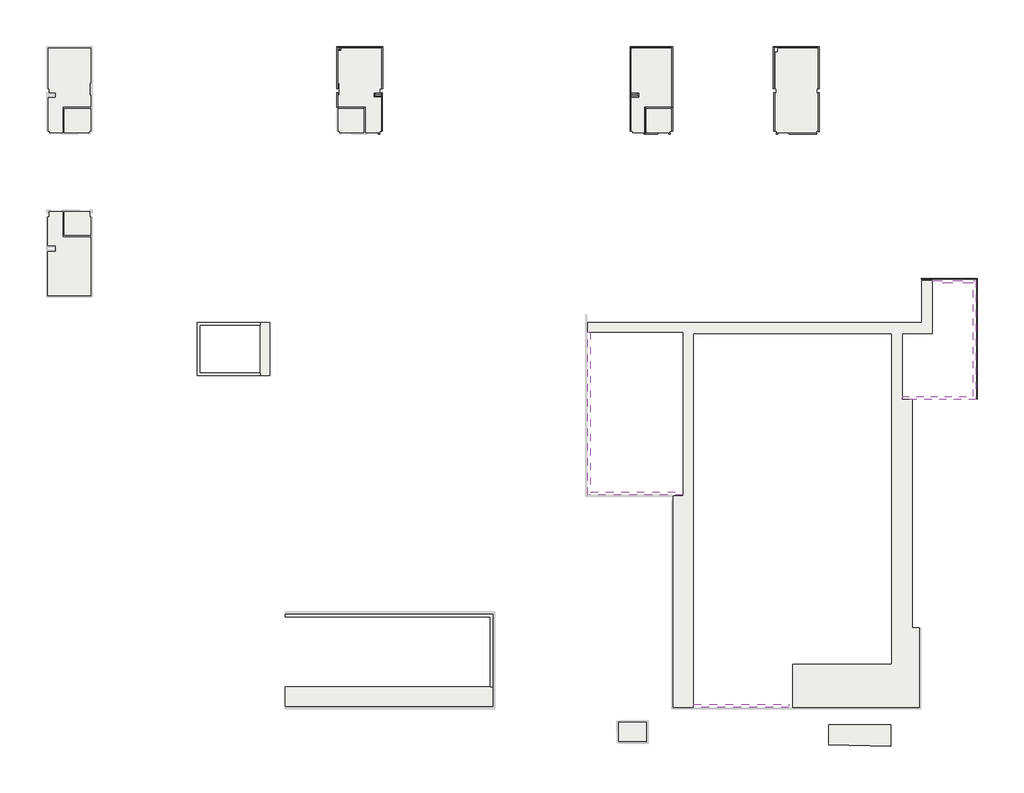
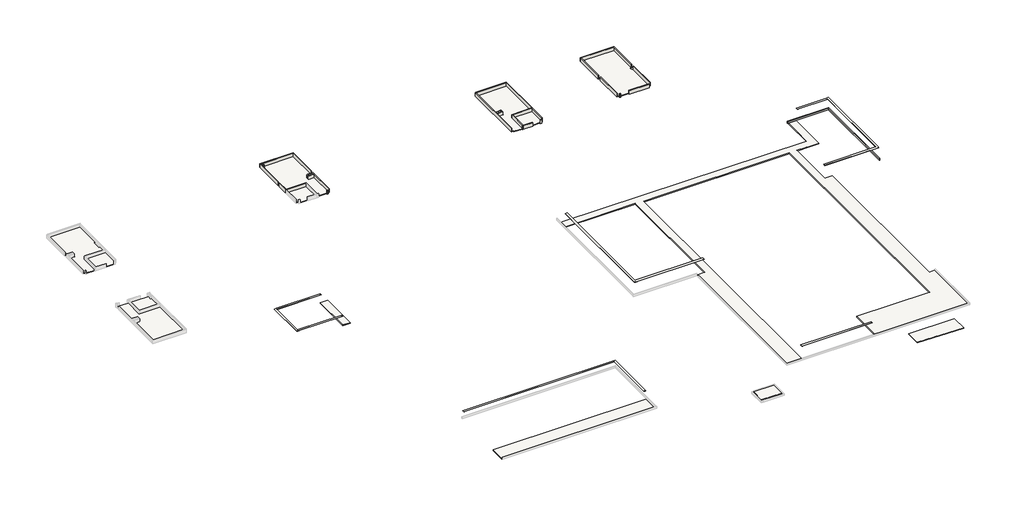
# One storey, part 2 of 2: 33 walls, 19 slabs.
"""IFC4 building model written with IfcOpenShell, lengths in millimetres."""

import ifcopenshell
import ifcopenshell.guid

model = None  # the IFC model being written
_history = None  # IfcOwnerHistory: only IFC2X3 demands one
_inside = {}  # id of a spatial element -> (the spatial element, [elements in it])
_under = {}  # id of a project, library or spatial element -> (it, [spatial elements below it])
_declared = {}  # id of a project -> (the project, [libraries it declares])
_typed = {}  # id of a type object -> (the type object, [elements of that type])
_made_of = {}  # id of a material, layer set ... -> (it, [elements and type objects made of it])


def new_model(schema):
    """Start an empty IFC model of exactly this schema.

    Asked for "IFC4X3", IfcOpenShell would pick the latest addendum, in which some entities
    have other attributes; the version numbers below select the first issue.
    IFC2X3 requires an IfcOwnerHistory on every rooted entity: one is made here for all.
    """
    global model, _history
    if schema == "IFC4X3":
        model = ifcopenshell.file(schema_version=(4, 3, 0, 0))
    else:
        model = ifcopenshell.file(schema=schema)
    _inside.clear()
    _under.clear()
    _declared.clear()
    _typed.clear()
    _made_of.clear()
    _history = None
    if model.schema == "IFC2X3":
        org = make("IfcOrganization", Name="unknown")
        user = make(
            "IfcPersonAndOrganization",
            ThePerson=make("IfcPerson", FamilyName="unknown"),
            TheOrganization=org,
        )
        app = make(
            "IfcApplication",
            ApplicationDeveloper=org,
            Version="unknown",
            ApplicationFullName="unknown",
            ApplicationIdentifier="unknown",
        )
        _history = make(
            "IfcOwnerHistory",
            OwningUser=user,
            OwningApplication=app,
            ChangeAction="ADDED",
            CreationDate=0,
        )
    return model


def make(cls, **values):
    """One entity of the class cls with the attributes given. An attribute that is None is left unset."""
    return model.create_entity(
        cls, **{name: value for name, value in values.items() if value is not None}
    )


def rooted(cls, **values):
    """An entity with a GlobalId (a new one), such as an element, a storey or a relation."""
    return make(cls, GlobalId=ifcopenshell.guid.new(), OwnerHistory=_history, **values)


def si_unit(unit_type, name, prefix=None):
    """IfcSIUnit, for example si_unit("LENGTHUNIT", "METRE", prefix="MILLI")."""
    return make("IfcSIUnit", UnitType=unit_type, Prefix=prefix, Name=name)


def assignment(units):
    """IfcUnitAssignment: the units of a project."""
    return None if units is None else make("IfcUnitAssignment", Units=units)


def point(xyz):
    """IfcCartesianPoint."""
    return None if xyz is None else make("IfcCartesianPoint", Coordinates=xyz)


def direction(xyz):
    """IfcDirection."""
    return None if xyz is None else make("IfcDirection", DirectionRatios=xyz)


def frame(location, z_axis=None, x_axis=None):
    """IfcAxis2Placement3D, a coordinate frame: its origin and axes. An axis left out is left unset."""
    return make(
        "IfcAxis2Placement3D",
        Location=point(location),
        Axis=direction(z_axis),
        RefDirection=direction(x_axis),
    )


def origin():
    """The frame at (0, 0, 0) with its axes left unset."""
    return frame((0.0, 0.0, 0.0))


def place(relative_to, where):
    """IfcLocalPlacement: puts the frame where relative to a parent placement (None: the world)."""
    return make(
        "IfcLocalPlacement", PlacementRelTo=relative_to, RelativePlacement=where
    )


def context(
    kind, dimensions, precision=None, world=None, true_north=None, identifier=None
):
    """IfcGeometricRepresentationContext, for example the 3D "Model" context."""
    return make(
        "IfcGeometricRepresentationContext",
        ContextIdentifier=identifier,
        ContextType=kind,
        CoordinateSpaceDimension=dimensions,
        Precision=precision,
        WorldCoordinateSystem=world,
        TrueNorth=true_north,
    )


def project(units=None, contexts=None):
    """IfcProject with its units and contexts."""
    return rooted(
        "IfcProject",
        Name="project",
        RepresentationContexts=contexts,
        UnitsInContext=assignment(units),
    )


def spatial(cls, under=None, at=None, **own):
    """A site, building, storey or space (cls), placed at a placement, below another one or the project."""
    s = rooted(cls, ObjectPlacement=at, **own)
    if under is not None:
        _under.setdefault(under.id(), (under, []))[1].append(s)
    return s


def polyline(points):
    """IfcPolyline through the points."""
    return make("IfcPolyline", Points=[point(p) for p in points])


def outline(outer, holes=None, kind="AREA"):
    """IfcArbitraryClosedProfileDef: a profile drawn as a closed curve; with holes, ...WithVoids."""
    if holes is None:
        return make("IfcArbitraryClosedProfileDef", ProfileType=kind, OuterCurve=outer)
    return make(
        "IfcArbitraryProfileDefWithVoids",
        ProfileType=kind,
        OuterCurve=outer,
        InnerCurves=holes,
    )


def extrude(swept, where, along, depth):
    """IfcExtrudedAreaSolid: the profile swept, set in the frame where, extruded along a direction by depth."""
    return make(
        "IfcExtrudedAreaSolid",
        SweptArea=swept,
        Position=where,
        ExtrudedDirection=direction(along),
        Depth=depth,
    )


def faces_of(points, faces, orient=None, outer=None):
    """IfcFace entities. A face is a list of loops; a loop is a list of indices into points, from 0.

    orient and outer hold one flag for each loop. By default every Orientation is true, the
    first loop of a face is its IfcFaceOuterBound and the others are IfcFaceBound.
    """
    made = []
    for i, loops in enumerate(faces):
        bounds = []
        for j, loop in enumerate(loops):
            is_outer = j == 0 if outer is None else outer[i][j]
            bounds.append(
                make(
                    "IfcFaceOuterBound" if is_outer else "IfcFaceBound",
                    Bound=make("IfcPolyLoop", Polygon=[points[k] for k in loop]),
                    Orientation=True if orient is None else orient[i][j],
                )
            )
        made.append(make("IfcFace", Bounds=bounds))
    return made


def faceted_brep(points, faces, orient=None, outer=None, voids=None):
    """IfcFacetedBrep: a solid bounded by flat faces; with voids (closed shells), ...WithVoids."""
    shared = [point(p) for p in points]
    hull = make("IfcClosedShell", CfsFaces=faces_of(shared, faces, orient, outer))
    if voids is None:
        return make("IfcFacetedBrep", Outer=hull)
    return make(
        "IfcFacetedBrepWithVoids",
        Outer=hull,
        Voids=[
            make(cls, CfsFaces=faces_of(shared, fs, o, b)) for cls, fs, o, b in voids
        ],
    )


def shape(context_of_items, identifier, shape_type, items):
    """IfcShapeRepresentation: the items that make up one representation, for example the "Body"."""
    return make(
        "IfcShapeRepresentation",
        ContextOfItems=context_of_items,
        RepresentationIdentifier=identifier,
        RepresentationType=shape_type,
        Items=items,
    )


def made_of(thing, what):
    """Note that an element or type object is made of a material, layer set ...; save() writes the relation."""
    if what is not None:
        _made_of.setdefault(what.id(), (what, []))[1].append(thing)
    return thing


def element(
    cls,
    number,
    at=None,
    inside=None,
    cuts=None,
    type_object=None,
    material=None,
    context=None,
    identifier="Body",
    shape_type=None,
    held_by="IfcProductDefinitionShape",
    body=None,
    shapes=None,
    **own,
):
    """One element of the class cls, such as IfcWall. Its Tag is "e" and its number.

    at: its placement. inside: the storey or other place that contains it. cuts: it is an
    opening in that element (IfcRelVoidsElement). A single representation is given by context,
    identifier, shape_type and body (its items); several are given by shapes. held_by: the class
    of the entity that holds the representations. save() writes the other relations.
    """
    e = rooted(cls, Tag="e%d" % number, ObjectPlacement=at, **own)
    if body is not None:
        shapes = [shape(context, identifier, shape_type, body)]
    if shapes is not None:
        e.Representation = make(held_by, Representations=shapes)
    if inside is not None:
        _inside.setdefault(inside.id(), (inside, []))[1].append(e)
    if cuts is not None:
        rooted(
            "IfcRelVoidsElement", RelatingBuildingElement=cuts, RelatedOpeningElement=e
        )
    if type_object is not None:
        _typed.setdefault(type_object.id(), (type_object, []))[1].append(e)
    return made_of(e, material)


def aggregate(whole, parts):
    """IfcRelAggregates: a whole, such as a stair, and the parts it consists of."""
    return rooted("IfcRelAggregates", RelatingObject=whole, RelatedObjects=parts)


def save(model, path):
    """Write the relations noted so far, then the file.

    IfcRelAggregates (storeys below a building ...), IfcRelContainedInSpatialStructure (elements
    in a storey), IfcRelDefinesByType, IfcRelAssociatesMaterial and IfcRelDeclares: one each for
    every whole, place, type object, material and project.
    """
    for whole, parts in _under.values():
        aggregate(whole, parts)
    for where, things in _inside.values():
        rooted(
            "IfcRelContainedInSpatialStructure",
            RelatedElements=things,
            RelatingStructure=where,
        )
    for kind, things in _typed.values():
        rooted("IfcRelDefinesByType", RelatedObjects=things, RelatingType=kind)
    for what, things in _made_of.values():
        rooted("IfcRelAssociatesMaterial", RelatedObjects=things, RelatingMaterial=what)
    for by, libraries in _declared.values():
        rooted("IfcRelDeclares", RelatingContext=by, RelatedDefinitions=libraries)
    model.write(path)


model = new_model("IFC4")

# Units and contexts
model_context = context("Model", 3, world=origin())
ifc_project = project(units=[si_unit("LENGTHUNIT", "METRE", prefix="MILLI")], contexts=[model_context])

# Site, building, storey
site = spatial("IfcSite", under=ifc_project)
building = spatial("IfcBuilding", under=site)
storey = spatial("IfcBuildingStorey", under=building, Name="PLANTA DE IMPERMEABILIZAÇÃO - 1° PAV.", Elevation=55900.0)

# Slabs
placement = place(None, origin())
element("IfcSlab", 1, ObjectType="Áreas frias", at=placement, inside=storey, context=model_context, shape_type="SweptSolid", body=[
    extrude(outline(polyline([(3930.450125, 28556.8823991), (3930.450125, 23956.8823991), (3765.4324184, 23956.8823991), (1810.4324184, 23956.8823991), (1810.4324184, 23806.8823991), (1810.4324184, 21906.8823991), (909.4532965, 21906.8823991), (909.4532965, 22040.4418221), (783.1589783, 22040.4418221), (783.1589783, 24677.5823991), (1385.6589783, 24677.5823991), (1385.6589783, 25057.5823991), (783.1589783, 25057.5823991), (783.1589783, 28556.8823991), (3930.450125, 28556.8823991)])), frame((0.0, 0.0, 55897.0), z_axis=(0.0, 0.0, 1.0), x_axis=(1.0, 0.0, 0.0)), (0.0, 0.0, 1.0), 53.0),
])
element("IfcSlab", 2, ObjectType="Áreas frias", at=placement, inside=storey, context=model_context, shape_type="SweptSolid", body=[
    extrude(outline(polyline([(1960.4324184, 23806.8823991), (3765.4324184, 23806.8823991), (3930.450125, 23806.8823991), (3930.450125, 22040.4418221), (3798.9532965, 22040.4418221), (3798.9532965, 21906.8823991), (1960.4324184, 21906.8823991), (1960.4324184, 23806.8823991)])), frame((0.0, 0.0, 55897.0), z_axis=(0.0, 0.0, 1.0), x_axis=(1.0, 0.0, 0.0)), (0.0, 0.0, 1.0), 53.0),
])
element("IfcSlab", 3, ObjectType="Áreas frias", at=placement, inside=storey, context=model_context, shape_type="SweptSolid", body=[
    extrude(outline(polyline([(15288.9532965, 21906.8823991), (12176.9532965, 21906.8823991), (12176.9532965, 22040.4418221), (12050.450125, 22040.4418221), (12050.450125, 25029.7226891), (12155.4532965, 25029.7226891), (12155.4532965, 25373.7226891), (12050.450125, 25373.7226891), (12050.450125, 28243.0823991), (12269.950125, 28243.0823991), (12269.950125, 28557.5823991), (15420.450125, 28557.5823991), (15420.450125, 25373.7226891), (15310.4532965, 25373.7226891), (15310.4532965, 25029.7226891), (15420.450125, 25029.7226891), (15420.450125, 22040.4418221), (15288.9532965, 22040.4418221), (15288.9532965, 21906.8823991)])), frame((0.0, 0.0, 55897.0), z_axis=(0.0, 0.0, 1.0), x_axis=(1.0, 0.0, 0.0)), (0.0, 0.0, 1.0), 53.0),
])
element("IfcSlab", 4, ObjectType="Áreas frias", at=placement, inside=storey, context=model_context, shape_type="SweptSolid", body=[
    extrude(outline(polyline([(-18968.5467035, 21906.8823991), (-20052.5498031, 21906.8823991), (-20052.5498031, 23956.8823991), (-22207.049875, 23956.8823991), (-22207.049875, 24876.8823991), (-22117.049875, 24876.8823991), (-22117.049875, 25796.8823991), (-22207.049875, 25796.8823991), (-22207.049875, 28332.3823991), (-21985.049875, 28332.3823991), (-21985.049875, 28556.8823991), (-18837.049875, 28556.8823991), (-18837.049875, 25373.7226891), (-18944.549875, 25373.7226891), (-18944.549875, 25056.8823991), (-19439.549875, 25056.8823991), (-19439.549875, 24681.8823991), (-18837.049875, 24681.8823991), (-18837.049875, 22041.4418221), (-18968.5467035, 22041.4418221), (-18968.5467035, 21906.8823991)])), frame((0.0, 0.0, 55897.0), z_axis=(0.0, 0.0, 1.0), x_axis=(1.0, 0.0, 0.0)), (0.0, 0.0, 1.0), 53.0),
])
element("IfcSlab", 5, ObjectType="Áreas frias", at=placement, inside=storey, context=model_context, shape_type="SweptSolid", body=[
    extrude(outline(polyline([(-20202.5498031, 21906.8823991), (-22075.5467035, 21906.8823991), (-22075.5467035, 22041.4418221), (-22207.049875, 22041.4418221), (-22207.049875, 23806.8823991), (-20202.5498031, 23806.8823991), (-20202.5498031, 21906.8823991)])), frame((0.0, 0.0, 55897.0), z_axis=(0.0, 0.0, 1.0), x_axis=(1.0, 0.0, 0.0)), (0.0, 0.0, 1.0), 53.0),
])
element("IfcSlab", 6, ObjectType="Áreas frias", at=placement, inside=storey, context=model_context, shape_type="SweptSolid", body=[
    extrude(outline(polyline([(-44972.049875, 28556.8823991), (-41602.049875, 28556.8823991), (-41602.049875, 25793.8823991), (-41709.5467035, 25793.8823991), (-41709.5467035, 24867.8823991), (-41602.049875, 24867.8823991), (-41602.049875, 23956.8823991), (-43835.4504459, 23956.8823991), (-43835.4504459, 21906.8823991), (-44843.0467035, 21906.8823991), (-44843.0467035, 22040.4418221), (-44972.049875, 22040.4418221), (-44972.049875, 24681.8823991), (-44369.549875, 24681.8823991), (-44369.549875, 25056.8823991), (-44864.549875, 25056.8823991), (-44864.549875, 25374.124707), (-44972.049875, 25374.124707), (-44972.049875, 28556.8823991)])), frame((0.0, 0.0, 55897.0), z_axis=(0.0, 0.0, 1.0), x_axis=(1.0, 0.0, 0.0)), (0.0, 0.0, 1.0), 53.0),
])
element("IfcSlab", 7, ObjectType="Áreas frias", at=placement, inside=storey, context=model_context, shape_type="SweptSolid", body=[
    extrude(outline(polyline([(-41602.049875, 23806.8823991), (-41602.049875, 22040.4418221), (-41731.0467035, 22040.4418221), (-41731.0467035, 21906.8823991), (-43685.4504459, 21906.8823991), (-43685.4504459, 23806.8823991), (-41602.049875, 23806.8823991)])), frame((0.0, 0.0, 55897.0), z_axis=(0.0, 0.0, 1.0), x_axis=(1.0, 0.0, 0.0)), (0.0, 0.0, 1.0), 53.0),
])
element("IfcSlab", 8, ObjectType="Áreas frias", at=placement, inside=storey, context=model_context, shape_type="SweptSolid", body=[
    extrude(outline(polyline([(-41602.049875, 9122.7823991), (-44974.549875, 9122.7823991), (-44974.549875, 12622.7823991), (-44369.549875, 12622.7823991), (-44369.549875, 12997.7823991), (-44974.549875, 12997.7823991), (-44974.549875, 15286.8823991), (-44867.5467035, 15286.8823991), (-44867.5467035, 15736.8823991), (-43835.4504459, 15736.8823991), (-43835.4504459, 13722.7823991), (-41602.049875, 13722.7823991), (-41602.049875, 9122.7823991)])), frame((0.0, 0.0, 55897.0), z_axis=(0.0, 0.0, 1.0), x_axis=(1.0, 0.0, 0.0)), (0.0, 0.0, 1.0), 53.0),
])
element("IfcSlab", 9, ObjectType="Áreas frias", at=placement, inside=storey, context=model_context, shape_type="SweptSolid", body=[
    extrude(outline(polyline([(-41602.049875, 15286.8823991), (-41602.049875, 13872.7823991), (-43685.4504459, 13872.7823991), (-43685.4504459, 15736.8823991), (-41706.5467035, 15736.8823991), (-41706.5467035, 15286.8823991), (-41602.049875, 15286.8823991)])), frame((0.0, 0.0, 55897.0), z_axis=(0.0, 0.0, 1.0), x_axis=(1.0, 0.0, 0.0)), (0.0, 0.0, 1.0), 53.0),
])
element("IfcSlab", 10, ObjectType="Lajes de cobertura ou terraço", at=placement, inside=storey, context=model_context, shape_type="SweptSolid", body=[
    extrude(outline(polyline([(1932.1669844, -24376.1480088), (1932.1669844, -25876.0841575), (-210.03568, -25833.4440672), (-210.03568, -24376.1480088), (1932.1669844, -24376.1480088)])), frame((0.0, 0.0, 54925.0), z_axis=(0.0, 0.0, 1.0), x_axis=(1.0, 0.0, 0.0)), (0.0, 0.0, 1.0), 75.0),
])
element("IfcSlab", 11, ObjectType="Lajes de cobertura ou terraço", at=placement, inside=storey, context=model_context, shape_type="SweptSolid", body=[
    extrude(outline(polyline([(16262.119032, -26131.1068955), (16262.119032, -24541.617526), (21132.1190357, -24541.617526), (21132.1190357, -26228.043214), (16262.119032, -26131.1068955)])), frame((0.0, 0.0, 55825.0), z_axis=(0.0, 0.0, 1.0), x_axis=(1.0, 0.0, 0.0)), (0.0, 0.0, 1.0), 75.0),
])
element("IfcSlab", 12, ObjectType="Calhas, telhados metálicos, telhas, sheds, lajes inclinadas e vigas-calha", at=placement, inside=storey, context=model_context, shape_type="SweptSolid", body=[
    extrude(outline(polyline([(-10099.949875, -21562.9176009), (-10099.949875, -23117.9176009), (-26357.049875, -23117.9176009), (-26357.049875, -21562.9176009), (-10099.949875, -21562.9176009)])), frame((0.0, 0.0, 55806.0), z_axis=(0.0, 0.0, 1.0), x_axis=(1.0, 0.0, 0.0)), (0.0, 0.0, 1.0), 94.0),
])
element("IfcSlab", 13, ObjectType="Calhas, telhados metálicos, telhas, sheds, lajes inclinadas e vigas-calha", at=placement, inside=storey, context=model_context, shape_type="SweptSolid", body=[
    extrude(outline(polyline([(4077.750125, -23185.6176009), (4077.750125, -6593.1176009), (4838.4501354, -6593.1176009), (4838.4501354, 6249.5710284), (-2652.049875, 6249.5710284), (-2652.049875, 7010.5733494), (23570.450125, 7010.5733494), (23570.450125, 10314.3823991), (24376.0136801, 10314.3823991), (24376.0136801, 6165.5733494), (23570.450125, 6165.5733494), (22032.6530917, 6165.5733494), (22032.6530917, 964.3823991), (22812.6530917, 964.3823991), (22812.6530917, -16944.6176009), (23356.950125, -16944.6176009), (23356.950125, -23185.6176009), (13450.5954376, -23185.6176009), (13450.5954376, -19791.9448373), (21220.1779058, -19791.9448373), (21220.1779058, 6165.5733494), (5630.0918751, 6165.5733494), (5630.0918751, -23185.6176009), (4077.750125, -23185.6176009)])), frame((0.0, 0.0, 55856.0), z_axis=(0.0, 0.0, 1.0), x_axis=(1.0, 0.0, 0.0)), (0.0, 0.0, 1.0), 94.0),
])
element("IfcSlab", 14, ObjectType="Calhas, telhados metálicos, telhas, sheds, lajes inclinadas e vigas-calha", at=placement, inside=storey, context=model_context, shape_type="SweptSolid", body=[
    extrude(outline(polyline([(-27575.249875, 7010.5733494), (-27575.249875, 2852.8824394), (-28342.749875, 2852.8824394), (-28342.749875, 7010.5733494), (-27575.249875, 7010.5733494)])), frame((0.0, 0.0, 55806.0), z_axis=(0.0, 0.0, 1.0), x_axis=(1.0, 0.0, 0.0)), (0.0, 0.0, 1.0), 94.0),
])
element("IfcSlab", 15, ObjectType="Rufo", at=placement, inside=storey, context=model_context, shape_type="SweptSolid", body=[
    extrude(outline(polyline([(-33082.4399394, 6821.0756897), (-33082.4399394, 3042.3800991), (-28342.749875, 3042.3800991), (-28342.749875, 2852.8824394), (-33082.4399394, 2852.8824394), (-33271.9375991, 2852.8824394), (-33271.9375991, 7000.0), (-33082.4399394, 7000.0), (-28342.749875, 7000.0), (-28342.749875, 6821.0756897), (-33082.4399394, 6821.0756897)])), frame((0.0, 0.0, 56880.0), z_axis=(0.0, 0.0, 1.0), x_axis=(1.0, 0.0, 0.0)), (0.0, 0.0, 1.0), 20.0),
])
element("IfcSlab", 16, ObjectType="Rufo", at=placement, inside=storey, context=model_context, shape_type="SweptSolid", body=[
    extrude(outline(polyline([(-10099.949875, -15892.9176009), (-10099.949875, -16087.2275364), (-10099.949875, -21562.9176009), (-10294.949875, -21562.9176009), (-10294.949875, -16087.2275364), (-26358.2096659, -16087.2275364), (-26358.2096659, -15892.9176009), (-10099.949875, -15892.9176009)])), frame((0.0, 0.0, 56880.0), z_axis=(0.0, 0.0, 1.0), x_axis=(1.0, 0.0, 0.0)), (0.0, 0.0, 1.0), 20.0),
])
element("IfcSlab", 17, ObjectType="Rufo", at=placement, inside=storey, context=model_context, shape_type="SweptSolid", body=[
    extrude(outline(polyline([(-2425.9511435, 6249.5710284), (-2425.9511435, -6272.1176009), (4838.4501354, -6272.1176009), (4838.4501354, -6525.6176009), (-2425.9511435, -6525.6176009), (-2652.049875, -6525.6176009), (-2652.049875, 6249.5710284), (-2425.9511435, 6249.5710284)])), frame((0.0, 0.0, 57380.0), z_axis=(0.0, 0.0, 1.0), x_axis=(1.0, 0.0, 0.0)), (0.0, 0.0, 1.0), 20.0),
])
element("IfcSlab", 18, ObjectType="Rufo", at=placement, inside=storey, context=model_context, shape_type="SweptSolid", body=[
    extrude(outline(polyline([(13144.8829491, -22958.1176009), (13144.8829491, -23185.6176009), (5638.4501354, -23185.6176009), (5638.4501354, -22958.1176009), (13144.8829491, -22958.1176009)])), frame((0.0, 0.0, 57380.0), z_axis=(0.0, 0.0, 1.0), x_axis=(1.0, 0.0, 0.0)), (0.0, 0.0, 1.0), 20.0),
])
element("IfcSlab", 19, ObjectType="Rufo", at=placement, inside=storey, context=model_context, shape_type="SweptSolid", body=[
    extrude(outline(polyline([(27594.9589904, 1210.3823991), (27594.9589904, 10101.8823991), (24371.0384941, 10101.8823991), (24371.0384941, 10314.3823991), (27594.9589904, 10314.3823991), (27807.950125, 10314.3823991), (27807.950125, 1210.3823991), (27807.950125, 970.3823991), (22025.1530917, 970.3823991), (22025.1530917, 1210.3823991), (27594.9589904, 1210.3823991)])), frame((0.0, 0.0, 57380.0), z_axis=(0.0, 0.0, 1.0), x_axis=(1.0, 0.0, 0.0)), (0.0, 0.0, 1.0), 20.0),
])

# Walls
element("IfcWall", 20, ObjectType="Áreas frias", at=placement, inside=storey, context=model_context, shape_type="Brep", body=[
    faceted_brep([(-22312.049875, 28604.3823991, 55900.0), (-22247.049875, 28604.3823991, 55900.0), (-18792.049875, 28604.3823991, 55900.0), (-18727.049875, 28604.3823991, 55900.0), (-18727.049875, 28604.3823991, 56300.0), (-18792.049875, 28604.3823991, 56300.0), (-22247.049875, 28604.3823991, 56300.0), (-22312.049875, 28604.3823991, 56300.0), (-22312.049875, 28669.3823991, 55900.0), (-22312.049875, 28669.3823991, 56300.0), (-18727.049875, 28669.3823991, 56300.0), (-18727.049875, 28669.3823991, 55900.0)], [[[0, 1, 2, 3, 4, 5, 6, 7]], [[8, 9, 10, 11]], [[3, 2, 1, 0, 8, 11]], [[7, 6, 5, 4, 10, 9]], [[4, 3, 11, 10]], [[0, 7, 9, 8]]]),
])
element("IfcWall", 21, ObjectType="Áreas frias", at=placement, inside=storey, context=model_context, shape_type="SweptSolid", body=[
    extrude(outline(polyline([(-18792.049875, 25358.7226891), (-18792.049875, 28604.3823991), (-18727.049875, 28604.3823991), (-18727.049875, 25358.7226891), (-18792.049875, 25358.7226891)])), frame((0.0, 0.0, 55900.0), z_axis=(0.0, 0.0, 1.0), x_axis=(1.0, 0.0, 0.0)), (0.0, 0.0, 1.0), 400.0),
])
element("IfcWall", 22, ObjectType="Áreas frias", at=placement, inside=storey, context=model_context, shape_type="SweptSolid", body=[
    extrude(outline(polyline([(-18802.049875, 22024.7226891), (-18802.049875, 25044.7226891), (-18737.049875, 25044.7226891), (-18737.049875, 22024.7226891), (-18802.049875, 22024.7226891)])), frame((0.0, 0.0, 55900.0), z_axis=(0.0, 0.0, 1.0), x_axis=(1.0, 0.0, 0.0)), (0.0, 0.0, 1.0), 400.0),
])
element("IfcWall", 23, ObjectType="Áreas frias", at=placement, inside=storey, context=model_context, shape_type="SweptSolid", body=[
    extrude(outline(polyline([(-19068.5467035, 21869.3823991), (-18943.5467035, 21869.3823991), (-18943.5467035, 21804.3823991), (-19068.5467035, 21804.3823991), (-19068.5467035, 21869.3823991)])), frame((0.0, 0.0, 55900.0), z_axis=(0.0, 0.0, 1.0), x_axis=(1.0, 0.0, 0.0)), (0.0, 0.0, 1.0), 400.0),
])
element("IfcWall", 24, ObjectType="Áreas frias", at=placement, inside=storey, context=model_context, shape_type="SweptSolid", body=[
    extrude(outline(polyline([(-22247.049875, 28604.3823991), (-22247.049875, 25348.7226891), (-22312.049875, 25348.7226891), (-22312.049875, 28604.3823991), (-22247.049875, 28604.3823991)])), frame((0.0, 0.0, 55900.0), z_axis=(0.0, 0.0, 1.0), x_axis=(1.0, 0.0, 0.0)), (0.0, 0.0, 1.0), 400.0),
])
element("IfcWall", 25, ObjectType="Áreas frias", at=placement, inside=storey, context=model_context, shape_type="Brep", body=[
    faceted_brep([(-20160.0498031, 23914.3823991, 55900.0), (-22247.049875, 23914.3823991, 55900.0), (-22247.049875, 23914.3823991, 56300.0), (-20160.0498031, 23914.3823991, 56300.0), (-20160.0498031, 23849.3823991, 55900.0), (-20160.0498031, 23849.3823991, 56300.0), (-22247.049875, 23849.3823991, 56300.0), (-22247.049875, 23849.3823991, 55900.0), (-22247.049875, 23881.8823991, 55900.0), (-22247.049875, 23881.8823991, 56300.0)], [[[0, 1, 2, 3]], [[4, 5, 6, 7]], [[1, 0, 4, 7, 8]], [[3, 2, 9, 6, 5]], [[0, 3, 5, 4]], [[2, 1, 8, 7, 6, 9]]]),
])
element("IfcWall", 26, ObjectType="Áreas frias", at=placement, inside=storey, context=model_context, shape_type="Brep", body=[
    faceted_brep([(682.9532965, 28676.8823991, 55900.0), (682.9532965, 22015.4418221, 55900.0), (682.9532965, 22015.4418221, 56300.0), (682.9532965, 28676.8823991, 56300.0), (747.9532965, 28676.8823991, 55900.0), (747.9532965, 28676.8823991, 56300.0), (747.9532965, 28611.8823991, 56300.0), (747.9532965, 22015.4418221, 56300.0), (747.9532965, 22015.4418221, 55900.0), (747.9532965, 28611.8823991, 55900.0)], [[[0, 1, 2, 3]], [[4, 5, 6, 7, 8, 9]], [[1, 0, 4, 9, 8]], [[2, 1, 8, 7]], [[3, 2, 7, 6, 5]], [[0, 3, 5, 4]]]),
])
element("IfcWall", 27, ObjectType="Áreas frias", at=placement, inside=storey, context=model_context, shape_type="Brep", body=[
    faceted_brep([(1793.4501543, 21804.3823991, 55900.0), (1885.4324184, 21804.3823991, 55900.0), (1885.4324184, 21804.3823991, 56300.0), (1793.4501543, 21804.3823991, 56300.0), (1793.4501543, 21869.3823991, 55900.0), (1793.4501543, 21869.3823991, 56300.0), (1852.9324184, 21869.3823991, 56300.0), (1885.4324184, 21869.3823991, 56300.0), (1885.4324184, 21869.3823991, 55900.0), (1852.9324184, 21869.3823991, 55900.0)], [[[0, 1, 2, 3]], [[4, 5, 6, 7, 8, 9]], [[1, 0, 4, 9, 8]], [[2, 1, 8, 7]], [[3, 2, 7, 6, 5]], [[0, 3, 5, 4]]]),
])
element("IfcWall", 28, ObjectType="Áreas frias", at=placement, inside=storey, context=model_context, shape_type="SweptSolid", body=[
    extrude(outline(polyline([(3823.9532965, 21804.3823991), (3698.9532965, 21804.3823991), (3698.9532965, 21869.3823991), (3823.9532965, 21869.3823991), (3823.9532965, 21804.3823991)])), frame((0.0, 0.0, 55900.0), z_axis=(0.0, 0.0, 1.0), x_axis=(1.0, 0.0, 0.0)), (0.0, 0.0, 1.0), 400.0),
])
element("IfcWall", 29, ObjectType="Áreas frias", at=placement, inside=storey, context=model_context, shape_type="Brep", body=[
    faceted_brep([(4027.9532965, 22015.4418221, 55900.0), (4027.9532965, 23881.8823991, 55900.0), (4027.9532965, 23881.8823991, 56300.0), (4027.9532965, 22015.4418221, 56300.0), (3962.9532965, 22015.4418221, 55900.0), (3962.9532965, 22015.4418221, 56300.0), (3962.9532965, 23849.3823991, 56300.0), (3962.9532965, 23881.8823991, 56300.0), (3962.9532965, 23881.8823991, 55900.0), (3962.9532965, 23849.3823991, 55900.0)], [[[0, 1, 2, 3]], [[4, 5, 6, 7, 8, 9]], [[1, 0, 4, 9, 8]], [[2, 1, 8, 7]], [[3, 2, 7, 6, 5]], [[0, 3, 5, 4]]]),
])
element("IfcWall", 30, ObjectType="Áreas frias", at=placement, inside=storey, context=model_context, shape_type="SweptSolid", body=[
    extrude(outline(polyline([(747.9532965, 28676.8823991), (3962.9532965, 28676.8823991), (3962.9532965, 28611.8823991), (747.9532965, 28611.8823991), (747.9532965, 28676.8823991)])), frame((0.0, 0.0, 55900.0), z_axis=(0.0, 0.0, 1.0), x_axis=(1.0, 0.0, 0.0)), (0.0, 0.0, 1.0), 400.0),
])
element("IfcWall", 31, ObjectType="Áreas frias", at=placement, inside=storey, context=model_context, shape_type="Brep", body=[
    faceted_brep([(3962.9532965, 23914.3823991, 55900.0), (1852.9324184, 23914.3823991, 55900.0), (1852.9324184, 23914.3823991, 56300.0), (3962.9532965, 23914.3823991, 56300.0), (3962.9532965, 23849.3823991, 55900.0), (3962.9532965, 23849.3823991, 56300.0), (1917.9324184, 23849.3823991, 56300.0), (1852.9324184, 23849.3823991, 56300.0), (1852.9324184, 23849.3823991, 55900.0), (1917.9324184, 23849.3823991, 55900.0), (3962.9532965, 23881.8823991, 55900.0), (3962.9532965, 23881.8823991, 56300.0)], [[[0, 1, 2, 3]], [[4, 5, 6, 7, 8, 9]], [[1, 0, 10, 4, 9, 8]], [[3, 2, 7, 6, 5, 11]], [[0, 3, 11, 5, 4, 10]], [[2, 1, 8, 7]]]),
])
element("IfcWall", 32, ObjectType="Áreas frias", at=placement, inside=storey, context=model_context, shape_type="Brep", body=[
    faceted_brep([(1852.9324184, 23849.3823991, 55900.0), (1852.9324184, 21869.3823991, 55900.0), (1852.9324184, 21869.3823991, 56300.0), (1852.9324184, 23849.3823991, 56300.0), (1917.9324184, 23849.3823991, 55900.0), (1917.9324184, 23849.3823991, 56300.0), (1917.9324184, 21869.3823991, 56300.0), (1917.9324184, 21869.3823991, 55900.0), (1885.4324184, 21869.3823991, 55900.0), (1885.4324184, 21869.3823991, 56300.0)], [[[0, 1, 2, 3]], [[4, 5, 6, 7]], [[1, 0, 4, 7, 8]], [[3, 2, 9, 6, 5]], [[0, 3, 5, 4]], [[2, 1, 8, 7, 6, 9]]]),
])
element("IfcWall", 33, ObjectType="Áreas frias", at=placement, inside=storey, context=model_context, shape_type="SweptSolid", body=[
    extrude(outline(polyline([(12276.9532965, 21808.9418221), (12151.9532965, 21808.9418221), (12151.9532965, 21873.9418221), (12276.9532965, 21873.9418221), (12276.9532965, 21808.9418221)])), frame((0.0, 0.0, 55900.0), z_axis=(0.0, 0.0, 1.0), x_axis=(1.0, 0.0, 0.0)), (0.0, 0.0, 1.0), 400.0),
])
element("IfcWall", 34, ObjectType="Áreas frias", at=placement, inside=storey, context=model_context, shape_type="SweptSolid", body=[
    extrude(outline(polyline([(15313.9532965, 21804.3823991), (13176.9532965, 21804.3823991), (13176.9532965, 21869.3823991), (15313.9532965, 21869.3823991), (15313.9532965, 21804.3823991)])), frame((0.0, 0.0, 55900.0), z_axis=(0.0, 0.0, 1.0), x_axis=(1.0, 0.0, 0.0)), (0.0, 0.0, 1.0), 400.0),
])
element("IfcWall", 35, ObjectType="Áreas frias", at=placement, inside=storey, context=model_context, shape_type="SweptSolid", body=[
    extrude(outline(polyline([(15517.9532965, 25042.2226891), (15517.9532965, 21995.4418221), (15452.9532965, 21995.4418221), (15452.9532965, 25042.2226891), (15517.9532965, 25042.2226891)])), frame((0.0, 0.0, 55900.0), z_axis=(0.0, 0.0, 1.0), x_axis=(1.0, 0.0, 0.0)), (0.0, 0.0, 1.0), 400.0),
])
element("IfcWall", 36, ObjectType="Áreas frias", at=placement, inside=storey, context=model_context, shape_type="Brep", body=[
    faceted_brep([(15520.450125, 25358.7226891, 55900.0), (15520.450125, 28677.5823991, 55900.0), (15520.450125, 28677.5823991, 56300.0), (15520.450125, 25358.7226891, 56300.0), (15455.450125, 25358.7226891, 55900.0), (15455.450125, 25358.7226891, 56300.0), (15455.450125, 28612.5823991, 56300.0), (15455.450125, 28677.5823991, 56300.0), (15455.450125, 28677.5823991, 55900.0), (15455.450125, 28612.5823991, 55900.0)], [[[0, 1, 2, 3]], [[4, 5, 6, 7, 8, 9]], [[1, 0, 4, 9, 8]], [[3, 2, 7, 6, 5]], [[0, 3, 5, 4]], [[2, 1, 8, 7]]]),
])
element("IfcWall", 37, ObjectType="Áreas frias", at=placement, inside=storey, context=model_context, shape_type="Brep", body=[
    faceted_brep([(15455.450125, 28677.5823991, 55900.0), (11925.450125, 28677.5823991, 55900.0), (11925.450125, 28677.5823991, 56300.0), (15455.450125, 28677.5823991, 56300.0), (15455.450125, 28612.5823991, 55900.0), (15455.450125, 28612.5823991, 56300.0), (11990.450125, 28612.5823991, 56300.0), (11925.450125, 28612.5823991, 56300.0), (11925.450125, 28612.5823991, 55900.0), (11990.450125, 28612.5823991, 55900.0)], [[[0, 1, 2, 3]], [[4, 5, 6, 7, 8, 9]], [[1, 0, 4, 9, 8]], [[3, 2, 7, 6, 5]], [[0, 3, 5, 4]], [[2, 1, 8, 7]]]),
])
element("IfcWall", 38, ObjectType="Áreas frias", at=placement, inside=storey, context=model_context, shape_type="SweptSolid", body=[
    extrude(outline(polyline([(11925.450125, 25358.7226891), (11925.450125, 28612.5823991), (11990.450125, 28612.5823991), (11990.450125, 25358.7226891), (11925.450125, 25358.7226891)])), frame((0.0, 0.0, 55900.0), z_axis=(0.0, 0.0, 1.0), x_axis=(1.0, 0.0, 0.0)), (0.0, 0.0, 1.0), 400.0),
])
element("IfcWall", 39, ObjectType="Áreas frias", at=placement, inside=storey, context=model_context, shape_type="SweptSolid", body=[
    extrude(outline(polyline([(11947.950125, 22015.4418221), (11947.950125, 25054.7226891), (12012.950125, 25054.7226891), (12012.950125, 22015.4418221), (11947.950125, 22015.4418221)])), frame((0.0, 0.0, 55900.0), z_axis=(0.0, 0.0, 1.0), x_axis=(1.0, 0.0, 0.0)), (0.0, 0.0, 1.0), 400.0),
])
element("IfcWall", 40, ObjectType="Áreas frias", at=placement, inside=storey, context=model_context, shape_type="Brep", body=[
    faceted_brep([(27927.950125, 1019.8823991, 55900.0), (27927.950125, 10472.3823991, 55900.0), (27927.950125, 10472.3823991, 56100.0), (27927.950125, 1019.8823991, 56100.0), (27862.950125, 1019.8823991, 55900.0), (27862.950125, 1019.8823991, 56100.0), (27862.950125, 10407.3823991, 56100.0), (27862.950125, 10472.3823991, 56100.0), (27862.950125, 10472.3823991, 55900.0), (27862.950125, 10407.3823991, 55900.0)], [[[0, 1, 2, 3]], [[4, 5, 6, 7, 8, 9]], [[1, 0, 4, 9, 8]], [[3, 2, 7, 6, 5]], [[0, 3, 5, 4]], [[2, 1, 8, 7]]]),
])
element("IfcWall", 41, ObjectType="Áreas frias", at=placement, inside=storey, context=model_context, shape_type="SweptSolid", body=[
    extrude(outline(polyline([(23515.450125, 10472.3823991), (27862.950125, 10472.3823991), (27862.950125, 10407.3823991), (23515.450125, 10407.3823991), (23515.450125, 10472.3823991)])), frame((0.0, 0.0, 55900.0), z_axis=(0.0, 0.0, 1.0), x_axis=(1.0, 0.0, 0.0)), (0.0, 0.0, 1.0), 200.0),
])
element("IfcWall", 42, ObjectType="Áreas frias", at=placement, inside=storey, context=model_context, shape_type="Brep", body=[
    faceted_brep([(768.1589783, 24715.0823991, 55900.0), (1348.1589783, 24715.0823991, 55900.0), (1348.1589783, 24715.0823991, 56300.0), (768.1589783, 24715.0823991, 56300.0), (768.1589783, 24780.0823991, 55900.0), (768.1589783, 24780.0823991, 56300.0), (1283.1589783, 24780.0823991, 56300.0), (1348.1589783, 24780.0823991, 56300.0), (1348.1589783, 24780.0823991, 55900.0), (1283.1589783, 24780.0823991, 55900.0)], [[[0, 1, 2, 3]], [[4, 5, 6, 7, 8, 9]], [[1, 0, 4, 9, 8]], [[3, 2, 7, 6, 5]], [[0, 3, 5, 4]], [[2, 1, 8, 7]]]),
])
element("IfcWall", 43, ObjectType="Áreas frias", at=placement, inside=storey, context=model_context, shape_type="Brep", body=[
    faceted_brep([(1348.1589783, 24780.0823991, 55900.0), (1348.1589783, 25015.0823991, 55900.0), (1348.1589783, 25015.0823991, 56300.0), (1348.1589783, 24780.0823991, 56300.0), (1283.1589783, 24780.0823991, 55900.0), (1283.1589783, 24780.0823991, 56300.0), (1283.1589783, 24950.0823991, 56300.0), (1283.1589783, 25015.0823991, 56300.0), (1283.1589783, 25015.0823991, 55900.0), (1283.1589783, 24950.0823991, 55900.0)], [[[0, 1, 2, 3]], [[4, 5, 6, 7, 8, 9]], [[1, 0, 4, 9, 8]], [[3, 2, 7, 6, 5]], [[0, 3, 5, 4]], [[2, 1, 8, 7]]]),
])
element("IfcWall", 44, ObjectType="Áreas frias", at=placement, inside=storey, context=model_context, shape_type="SweptSolid", body=[
    extrude(outline(polyline([(758.1589783, 25015.0823991), (1283.1589783, 25015.0823991), (1283.1589783, 24950.0823991), (758.1589783, 24950.0823991), (758.1589783, 25015.0823991)])), frame((0.0, 0.0, 55900.0), z_axis=(0.0, 0.0, 1.0), x_axis=(1.0, 0.0, 0.0)), (0.0, 0.0, 1.0), 400.0),
])
element("IfcWall", 45, ObjectType="Áreas frias", at=placement, inside=storey, context=model_context, shape_type="Brep", body=[
    faceted_brep([(1885.4324184, 21804.3823991, 55900.0), (2866.7032965, 21804.3823991, 55900.0), (2866.7032965, 21804.3823991, 56300.0), (1885.4324184, 21804.3823991, 56300.0), (1885.4324184, 21869.3823991, 55900.0), (1885.4324184, 21869.3823991, 56300.0), (1917.9324184, 21869.3823991, 56300.0), (2866.7032965, 21869.3823991, 56300.0), (2866.7032965, 21869.3823991, 55900.0), (1917.9324184, 21869.3823991, 55900.0)], [[[0, 1, 2, 3]], [[4, 5, 6, 7, 8, 9]], [[1, 0, 4, 9, 8]], [[2, 1, 8, 7]], [[3, 2, 7, 6, 5]], [[0, 3, 5, 4]]]),
])
element("IfcWall", 46, ObjectType="Áreas frias", at=placement, inside=storey, context=model_context, shape_type="Brep", body=[
    faceted_brep([(4027.9532965, 23881.8823991, 55900.0), (4027.9532965, 28676.8823991, 55900.0), (4027.9532965, 28676.8823991, 56300.0), (4027.9532965, 23881.8823991, 56300.0), (3962.9532965, 23881.8823991, 55900.0), (3962.9532965, 23881.8823991, 56300.0), (3962.9532965, 23914.3823991, 56300.0), (3962.9532965, 28611.8823991, 56300.0), (3962.9532965, 28676.8823991, 56300.0), (3962.9532965, 28676.8823991, 55900.0), (3962.9532965, 28611.8823991, 55900.0), (3962.9532965, 23914.3823991, 55900.0)], [[[0, 1, 2, 3]], [[4, 5, 6, 7, 8, 9, 10, 11]], [[1, 0, 4, 11, 10, 9]], [[3, 2, 8, 7, 6, 5]], [[0, 3, 5, 4]], [[2, 1, 9, 8]]]),
])
element("IfcWall", 47, ObjectType="Áreas frias", at=placement, inside=storey, context=model_context, shape_type="Brep", body=[
    faceted_brep([(-22247.049875, 23881.8823991, 55900.0), (-22247.049875, 23914.3823991, 55900.0), (-22247.049875, 25054.7226891, 55900.0), (-22247.049875, 25054.7226891, 56300.0), (-22247.049875, 23914.3823991, 56300.0), (-22247.049875, 23881.8823991, 56300.0), (-22312.049875, 23881.8823991, 55900.0), (-22312.049875, 23881.8823991, 56300.0), (-22312.049875, 25054.7226891, 56300.0), (-22312.049875, 25054.7226891, 55900.0)], [[[0, 1, 2, 3, 4, 5]], [[6, 7, 8, 9]], [[2, 1, 0, 6, 9]], [[3, 2, 9, 8]], [[5, 4, 3, 8, 7]], [[0, 5, 7, 6]]]),
])
element("IfcWall", 48, ObjectType="Áreas frias", at=placement, inside=storey, context=model_context, shape_type="Brep", body=[
    faceted_brep([(-18837.049875, 24788.3797701, 55900.0), (-19337.049875, 24788.3797701, 55900.0), (-19402.049875, 24788.3797701, 55900.0), (-19402.049875, 24788.3797701, 56300.0), (-19337.049875, 24788.3797701, 56300.0), (-18837.049875, 24788.3797701, 56300.0), (-18837.049875, 24723.3797701, 55900.0), (-18837.049875, 24723.3797701, 56300.0), (-19402.049875, 24723.3797701, 56300.0), (-19402.049875, 24723.3797701, 55900.0)], [[[0, 1, 2, 3, 4, 5]], [[6, 7, 8, 9]], [[2, 1, 0, 6, 9]], [[5, 4, 3, 8, 7]], [[0, 5, 7, 6]], [[3, 2, 9, 8]]]),
])
element("IfcWall", 49, ObjectType="Áreas frias", at=placement, inside=storey, context=model_context, shape_type="Brep", body=[
    faceted_brep([(-19337.049875, 24788.3797701, 55900.0), (-19337.049875, 24954.3823991, 55900.0), (-19337.049875, 25019.3823991, 55900.0), (-19337.049875, 25019.3823991, 56300.0), (-19337.049875, 24954.3823991, 56300.0), (-19337.049875, 24788.3797701, 56300.0), (-19402.049875, 24788.3797701, 55900.0), (-19402.049875, 24788.3797701, 56300.0), (-19402.049875, 25019.3823991, 56300.0), (-19402.049875, 25019.3823991, 55900.0)], [[[0, 1, 2, 3, 4, 5]], [[6, 7, 8, 9]], [[2, 1, 0, 6, 9]], [[5, 4, 3, 8, 7]], [[0, 5, 7, 6]], [[3, 2, 9, 8]]]),
])
element("IfcWall", 50, ObjectType="Áreas frias", at=placement, inside=storey, context=model_context, shape_type="SweptSolid", body=[
    extrude(outline(polyline([(-18837.049875, 24954.3823991), (-19337.049875, 24954.3823991), (-19337.049875, 25019.3823991), (-18837.049875, 25019.3823991), (-18837.049875, 24954.3823991)])), frame((0.0, 0.0, 55900.0), z_axis=(0.0, 0.0, 1.0), x_axis=(1.0, 0.0, 0.0)), (0.0, 0.0, 1.0), 400.0),
])
element("IfcWall", 51, ObjectType="Áreas frias", at=placement, inside=storey, context=model_context, shape_type="SweptSolid", body=[
    extrude(outline(polyline([(-22087.549875, 28369.8823991), (-22232.049875, 28369.8823991), (-22232.049875, 28434.8823991), (-22087.549875, 28434.8823991), (-22087.549875, 28369.8823991)])), frame((0.0, 0.0, 55900.0), z_axis=(0.0, 0.0, 1.0), x_axis=(1.0, 0.0, 0.0)), (0.0, 0.0, 1.0), 400.0),
])
element("IfcWall", 52, ObjectType="Áreas frias", at=placement, inside=storey, context=model_context, shape_type="Brep", body=[
    faceted_brep([(-22022.549875, 28369.8823991, 55900.0), (-22022.549875, 28556.8823991, 55900.0), (-22022.549875, 28556.8823991, 56300.0), (-22022.549875, 28369.8823991, 56300.0), (-22087.549875, 28369.8823991, 55900.0), (-22087.549875, 28369.8823991, 56300.0), (-22087.549875, 28434.8823991, 56300.0), (-22087.549875, 28556.8823991, 56300.0), (-22087.549875, 28556.8823991, 55900.0), (-22087.549875, 28434.8823991, 55900.0)], [[[0, 1, 2, 3]], [[4, 5, 6, 7, 8, 9]], [[1, 0, 4, 9, 8]], [[2, 1, 8, 7]], [[3, 2, 7, 6, 5]], [[0, 3, 5, 4]]]),
])

save(model, "model.ifc")
